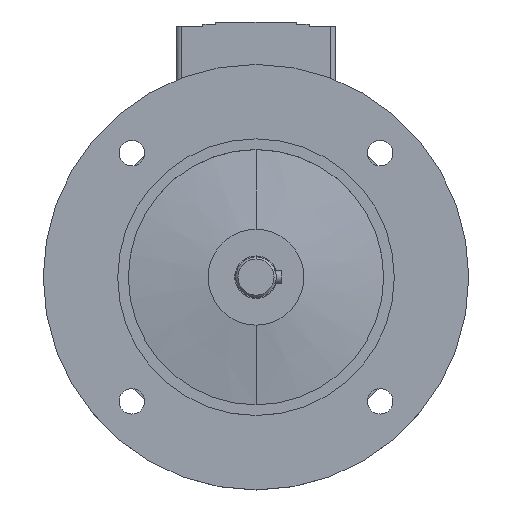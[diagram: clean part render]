
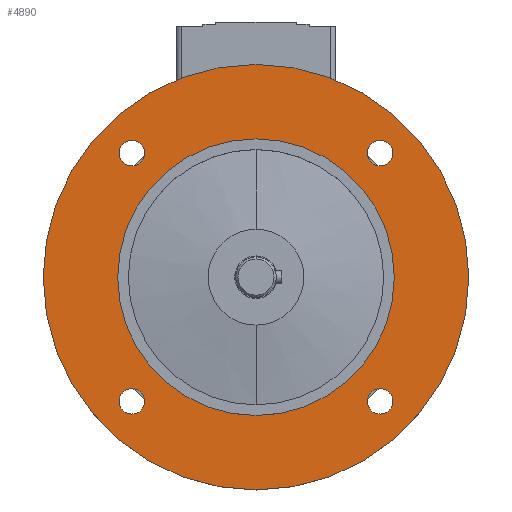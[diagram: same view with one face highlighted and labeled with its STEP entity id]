
A CAD part, top view. The second image highlights one B-rep face of the part: STEP entity #4890.
In plain terms, the highlighted planar face has unit normal (0, 0, 1).
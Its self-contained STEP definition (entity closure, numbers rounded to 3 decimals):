
#938=CARTESIAN_POINT('',(-58.336,58.336,23.5));
#939=DIRECTION('',(0.,0.,-1.));
#940=DIRECTION('',(-1.,0.,0.));
#941=AXIS2_PLACEMENT_3D('',#938,#939,#940);
#943=CARTESIAN_POINT('',(-58.336,58.336,23.5));
#944=DIRECTION('',(0.,0.,-1.));
#945=DIRECTION('',(1.,0.,0.));
#946=AXIS2_PLACEMENT_3D('',#943,#944,#945);
#948=CARTESIAN_POINT('',(-58.336,-58.336,23.5));
#949=DIRECTION('',(0.,0.,-1.));
#950=DIRECTION('',(-1.,0.,0.));
#951=AXIS2_PLACEMENT_3D('',#948,#949,#950);
#953=CARTESIAN_POINT('',(-58.336,-58.336,23.5));
#954=DIRECTION('',(0.,0.,-1.));
#955=DIRECTION('',(1.,0.,0.));
#956=AXIS2_PLACEMENT_3D('',#953,#954,#955);
#958=CARTESIAN_POINT('',(58.336,-58.336,23.5));
#959=DIRECTION('',(0.,0.,-1.));
#960=DIRECTION('',(-1.,0.,0.));
#961=AXIS2_PLACEMENT_3D('',#958,#959,#960);
#963=CARTESIAN_POINT('',(58.336,-58.336,23.5));
#964=DIRECTION('',(0.,0.,-1.));
#965=DIRECTION('',(1.,0.,0.));
#966=AXIS2_PLACEMENT_3D('',#963,#964,#965);
#968=CARTESIAN_POINT('',(0.,0.,23.5));
#969=DIRECTION('',(0.,0.,1.));
#970=DIRECTION('',(0.,1.,0.));
#971=AXIS2_PLACEMENT_3D('',#968,#969,#970);
#973=CARTESIAN_POINT('',(0.,0.,23.5));
#974=DIRECTION('',(0.,0.,-1.));
#975=DIRECTION('',(0.,1.,0.));
#976=AXIS2_PLACEMENT_3D('',#973,#974,#975);
#978=CARTESIAN_POINT('',(58.336,58.336,23.5));
#979=DIRECTION('',(0.,0.,-1.));
#980=DIRECTION('',(-1.,0.,0.));
#981=AXIS2_PLACEMENT_3D('',#978,#979,#980);
#983=CARTESIAN_POINT('',(58.336,58.336,23.5));
#984=DIRECTION('',(0.,0.,-1.));
#985=DIRECTION('',(1.,0.,0.));
#986=AXIS2_PLACEMENT_3D('',#983,#984,#985);
#1008=CARTESIAN_POINT('',(0.,0.,23.5));
#1009=DIRECTION('',(0.,0.,-1.));
#1010=DIRECTION('',(0.,1.,0.));
#1011=AXIS2_PLACEMENT_3D('',#1008,#1009,#1010);
#1021=CARTESIAN_POINT('',(0.,0.,23.5));
#1022=DIRECTION('',(0.,0.,1.));
#1023=DIRECTION('',(0.,1.,0.));
#1024=AXIS2_PLACEMENT_3D('',#1021,#1022,#1023);
#2779=CARTESIAN_POINT('',(0.,100.,23.5));
#2781=VERTEX_POINT('',#2779);
#2782=CARTESIAN_POINT('',(0.,65.,23.5));
#2784=VERTEX_POINT('',#2782);
#2787=CARTESIAN_POINT('',(0.,-100.,23.5));
#2789=VERTEX_POINT('',#2787);
#2790=CARTESIAN_POINT('',(0.,-65.,23.5));
#2792=VERTEX_POINT('',#2790);
#2798=CARTESIAN_POINT('',(52.336,58.336,23.5));
#2799=CARTESIAN_POINT('',(64.336,58.336,23.5));
#2800=VERTEX_POINT('',#2798);
#2801=VERTEX_POINT('',#2799);
#2806=CARTESIAN_POINT('',(52.336,-58.336,23.5));
#2807=CARTESIAN_POINT('',(64.336,-58.336,23.5));
#2808=VERTEX_POINT('',#2806);
#2809=VERTEX_POINT('',#2807);
#2814=CARTESIAN_POINT('',(-64.336,-58.336,23.5));
#2815=CARTESIAN_POINT('',(-52.336,-58.336,23.5));
#2816=VERTEX_POINT('',#2814);
#2817=VERTEX_POINT('',#2815);
#2822=CARTESIAN_POINT('',(-64.336,58.336,23.5));
#2823=CARTESIAN_POINT('',(-52.336,58.336,23.5));
#2824=VERTEX_POINT('',#2822);
#2825=VERTEX_POINT('',#2823);
#4850=CARTESIAN_POINT('',(0.,0.,23.5));
#4851=DIRECTION('',(0.,0.,-1.));
#4852=DIRECTION('',(0.,-1.,0.));
#4853=AXIS2_PLACEMENT_3D('',#4850,#4851,#4852);
#4854=PLANE('',#4853);
#4856=ORIENTED_EDGE('',*,*,#4855,.F.);
#4858=ORIENTED_EDGE('',*,*,#4857,.T.);
#4859=EDGE_LOOP('',(#4856,#4858));
#4860=FACE_OUTER_BOUND('',#4859,.F.);
#4861=ORIENTED_EDGE('',*,*,#4840,.F.);
#4863=ORIENTED_EDGE('',*,*,#4862,.F.);
#4864=EDGE_LOOP('',(#4861,#4863));
#4865=FACE_BOUND('',#4864,.F.);
#4867=ORIENTED_EDGE('',*,*,#4866,.F.);
#4869=ORIENTED_EDGE('',*,*,#4868,.F.);
#4870=EDGE_LOOP('',(#4867,#4869));
#4871=FACE_BOUND('',#4870,.F.);
#4873=ORIENTED_EDGE('',*,*,#4872,.F.);
#4875=ORIENTED_EDGE('',*,*,#4874,.F.);
#4876=EDGE_LOOP('',(#4873,#4875));
#4877=FACE_BOUND('',#4876,.F.);
#4879=ORIENTED_EDGE('',*,*,#4878,.F.);
#4881=ORIENTED_EDGE('',*,*,#4880,.T.);
#4882=EDGE_LOOP('',(#4879,#4881));
#4883=FACE_BOUND('',#4882,.F.);
#4885=ORIENTED_EDGE('',*,*,#4884,.F.);
#4887=ORIENTED_EDGE('',*,*,#4886,.F.);
#4888=EDGE_LOOP('',(#4885,#4887));
#4889=FACE_BOUND('',#4888,.F.);
#4890=ADVANCED_FACE('',(#4860,#4865,#4871,#4877,#4883,#4889),#4854,.F.);
#942=CIRCLE('',#941,6.);
#947=CIRCLE('',#946,6.);
#952=CIRCLE('',#951,6.);
#957=CIRCLE('',#956,6.);
#962=CIRCLE('',#961,6.);
#967=CIRCLE('',#966,6.);
#972=CIRCLE('',#971,100.);
#977=CIRCLE('',#976,100.);
#982=CIRCLE('',#981,6.);
#987=CIRCLE('',#986,6.);
#1012=CIRCLE('',#1011,65.);
#1025=CIRCLE('',#1024,65.);
#4840=EDGE_CURVE('',#2824,#2825,#942,.T.);
#4855=EDGE_CURVE('',#2781,#2789,#972,.T.);
#4857=EDGE_CURVE('',#2781,#2789,#977,.T.);
#4862=EDGE_CURVE('',#2825,#2824,#947,.T.);
#4866=EDGE_CURVE('',#2816,#2817,#952,.T.);
#4868=EDGE_CURVE('',#2817,#2816,#957,.T.);
#4872=EDGE_CURVE('',#2808,#2809,#962,.T.);
#4874=EDGE_CURVE('',#2809,#2808,#967,.T.);
#4878=EDGE_CURVE('',#2784,#2792,#1012,.T.);
#4880=EDGE_CURVE('',#2784,#2792,#1025,.T.);
#4884=EDGE_CURVE('',#2800,#2801,#982,.T.);
#4886=EDGE_CURVE('',#2801,#2800,#987,.T.);
